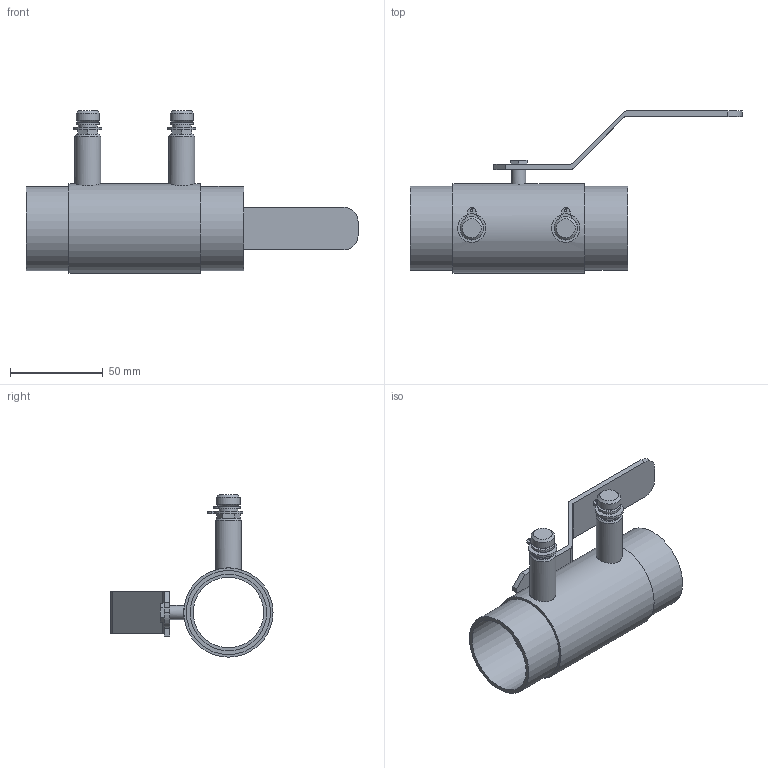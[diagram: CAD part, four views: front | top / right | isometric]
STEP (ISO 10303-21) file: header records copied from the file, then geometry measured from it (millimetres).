
FILE_DESCRIPTION(/* description */ ('VIC BALANCING VALVE SERIES 78BL (SWT)','CAx-IF Rec.Pracs.---Representation and Presentation of Product Manufacturing Information (PMI)---4.0---2014-10-13'),/* implementation_level */ '2;1');
FILE_NAME(/* name */ 'C:\Users\kkamble\Desktop\New folder (12)\New folder\step\Victaulic-IPS-TA Balancing Ball Valve Series 78BL (SWT)\Victaulic-IPS-TA Balancing Ball Valve Series 78BL (SWT)_1.5 (40).stp',/* time_stamp */ '2020-10-13T18:39:19+05:00',/* author */ ('kkamble'),/* organization */ ('Victaulic'),/* preprocessor_version */ 'ST-DEVELOPER v17.2',/* originating_system */ 'Autodesk Inventor 2019',/* authorisation */ '');
FILE_SCHEMA (('AP242_MANAGED_MODEL_BASED_3D_ENGINEERING_MIM_LF { 1 0 10303 442 1 1 4 }'));
Length unit declared in the file: inch
Products named in the file (1): 78BL-01.5
Bounding box: 179.45 x 87.63 x 87.76 mm (x, y, z)
Volume: 80488.5 mm3; surface area: 45140 mm2
Topology: 1 solids, 1 shells, 117 faces, 307 edges, 195 vertices
Faces by surface type: plane 78, cylinder 33, cone 6
Full cylindrical faces by diameter (mm): 4.318 x1, 7.62 x1, 10.16 x2, 12.7 x2, 13.97 x2, 38.1 x1, 41.351 x2, 45.466 x2, 48.26 x1
Entity records: 4011 total; most frequent: CARTESIAN_POINT 739, DIRECTION 666, ORIENTED_EDGE 614, EDGE_CURVE 307, AXIS2_PLACEMENT_3D 234, LINE 198, VECTOR 198, VERTEX_POINT 195
